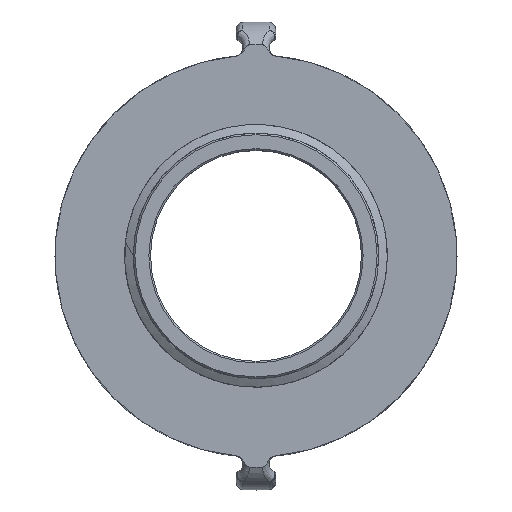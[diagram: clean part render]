
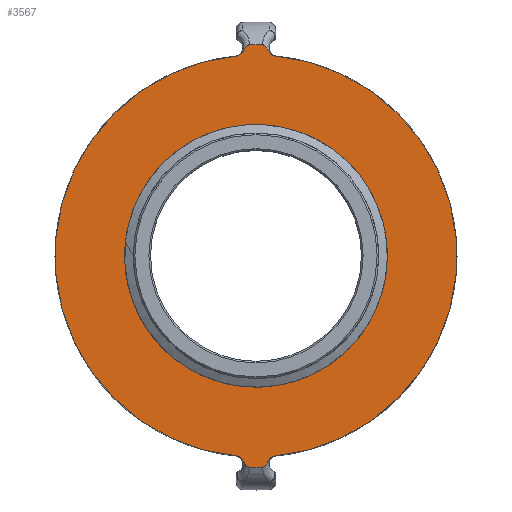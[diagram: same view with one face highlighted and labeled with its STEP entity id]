
A CAD part, top view. The second image highlights one B-rep face of the part: STEP entity #3567.
In plain terms, the highlighted planar face has unit normal (0, 0, 1).
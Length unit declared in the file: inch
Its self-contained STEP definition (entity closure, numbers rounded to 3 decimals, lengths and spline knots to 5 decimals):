
#462=CARTESIAN_POINT('',(0.,0.,-0.25));
#463=DIRECTION('',(0.,0.,1.));
#464=DIRECTION('',(0.,1.,0.));
#465=AXIS2_PLACEMENT_3D('',#462,#463,#464);
#467=CARTESIAN_POINT('',(0.,0.,-0.25));
#468=DIRECTION('',(0.,0.,1.));
#469=DIRECTION('',(0.,-1.,0.));
#470=AXIS2_PLACEMENT_3D('',#467,#468,#469);
#486=CARTESIAN_POINT('',(0.,0.,-0.25));
#487=DIRECTION('',(0.,0.,-1.));
#488=DIRECTION('',(0.086,0.996,0.));
#489=AXIS2_PLACEMENT_3D('',#486,#487,#488);
#526=CARTESIAN_POINT('',(0.,0.,-0.25));
#527=DIRECTION('',(0.,0.,-1.));
#528=DIRECTION('',(-0.086,-0.996,0.));
#529=AXIS2_PLACEMENT_3D('',#526,#527,#528);
#544=CARTESIAN_POINT('',(0.,0.,-0.25));
#545=DIRECTION('',(0.,0.,-1.));
#546=DIRECTION('',(-0.031,1.,0.));
#547=AXIS2_PLACEMENT_3D('',#544,#545,#546);
#628=CARTESIAN_POINT('',(0.,0.,-0.25));
#629=DIRECTION('',(0.,0.,-1.));
#630=DIRECTION('',(0.031,-1.,0.));
#631=AXIS2_PLACEMENT_3D('',#628,#629,#630);
#712=CARTESIAN_POINT('',(-0.32905,3.79827,-0.25));
#713=CARTESIAN_POINT('',(-0.3188,3.80325,-0.25));
#714=CARTESIAN_POINT('',(-0.29965,3.81492,-0.25));
#715=CARTESIAN_POINT('',(-0.27418,3.83699,-0.25));
#716=CARTESIAN_POINT('',(-0.25261,3.86181,-0.25));
#717=CARTESIAN_POINT('',(-0.23402,3.88831,-0.25));
#718=CARTESIAN_POINT('',(-0.21697,3.9161,-0.25));
#719=CARTESIAN_POINT('',(-0.20017,3.94402,-0.25));
#720=CARTESIAN_POINT('',(-0.18312,3.96838,-0.25));
#721=CARTESIAN_POINT('',(-0.16585,3.98677,-0.25));
#722=CARTESIAN_POINT('',(-0.14583,3.99975,-0.25));
#723=CARTESIAN_POINT('',(-0.13192,4.00296,-0.25));
#724=CARTESIAN_POINT('',(-0.12471,4.00319,-0.25));
#1004=CARTESIAN_POINT('',(0.12471,4.00319,-0.25));
#1005=CARTESIAN_POINT('',(0.13194,4.00296,-0.25));
#1006=CARTESIAN_POINT('',(0.14595,3.99974,-0.25));
#1007=CARTESIAN_POINT('',(0.16637,3.9864,-0.25));
#1008=CARTESIAN_POINT('',(0.18404,3.96722,-0.25));
#1009=CARTESIAN_POINT('',(0.20077,3.943,-0.25));
#1010=CARTESIAN_POINT('',(0.21691,3.91623,-0.25));
#1011=CARTESIAN_POINT('',(0.23347,3.88916,-0.25));
#1012=CARTESIAN_POINT('',(0.25187,3.86279,-0.25));
#1013=CARTESIAN_POINT('',(0.27345,3.83771,-0.25));
#1014=CARTESIAN_POINT('',(0.29919,3.81522,-0.25));
#1015=CARTESIAN_POINT('',(0.31863,3.80335,-0.25));
#1016=CARTESIAN_POINT('',(0.32905,3.79827,-0.25));
#1160=CARTESIAN_POINT('',(0.32905,-3.79827,-0.25));
#1161=CARTESIAN_POINT('',(0.3188,-3.80325,-0.25));
#1162=CARTESIAN_POINT('',(0.29965,-3.81492,-0.25));
#1163=CARTESIAN_POINT('',(0.27418,-3.83699,-0.25));
#1164=CARTESIAN_POINT('',(0.25261,-3.86181,-0.25));
#1165=CARTESIAN_POINT('',(0.23402,-3.88831,-0.25));
#1166=CARTESIAN_POINT('',(0.21697,-3.9161,-0.25));
#1167=CARTESIAN_POINT('',(0.20017,-3.94402,-0.25));
#1168=CARTESIAN_POINT('',(0.18312,-3.96838,-0.25));
#1169=CARTESIAN_POINT('',(0.16585,-3.98677,-0.25));
#1170=CARTESIAN_POINT('',(0.14583,-3.99975,-0.25));
#1171=CARTESIAN_POINT('',(0.13192,-4.00296,-0.25));
#1172=CARTESIAN_POINT('',(0.12471,-4.00319,-0.25));
#1452=CARTESIAN_POINT('',(-0.12471,-4.00319,-0.25));
#1453=CARTESIAN_POINT('',(-0.13194,-4.00296,-0.25));
#1454=CARTESIAN_POINT('',(-0.14595,-3.99974,-0.25));
#1455=CARTESIAN_POINT('',(-0.16637,-3.9864,-0.25));
#1456=CARTESIAN_POINT('',(-0.18404,-3.96722,-0.25));
#1457=CARTESIAN_POINT('',(-0.20077,-3.943,-0.25));
#1458=CARTESIAN_POINT('',(-0.21691,-3.91623,-0.25));
#1459=CARTESIAN_POINT('',(-0.23347,-3.88916,-0.25));
#1460=CARTESIAN_POINT('',(-0.25187,-3.86279,-0.25));
#1461=CARTESIAN_POINT('',(-0.27345,-3.83771,-0.25));
#1462=CARTESIAN_POINT('',(-0.29919,-3.81522,-0.25));
#1463=CARTESIAN_POINT('',(-0.31863,-3.80335,-0.25));
#1464=CARTESIAN_POINT('',(-0.32905,-3.79827,-0.25));
#2741=CARTESIAN_POINT('',(0.32905,3.79827,-0.25));
#2742=CARTESIAN_POINT('',(0.32905,-3.79827,-0.25));
#2743=VERTEX_POINT('',#2741);
#2744=VERTEX_POINT('',#2742);
#2745=CARTESIAN_POINT('',(-0.32905,-3.79827,-0.25));
#2746=CARTESIAN_POINT('',(-0.32905,3.79827,-0.25));
#2747=VERTEX_POINT('',#2745);
#2748=VERTEX_POINT('',#2746);
#2749=CARTESIAN_POINT('',(-0.12471,4.00319,-0.25));
#2750=CARTESIAN_POINT('',(0.12471,4.00319,-0.25));
#2751=VERTEX_POINT('',#2749);
#2752=VERTEX_POINT('',#2750);
#2753=CARTESIAN_POINT('',(0.12471,-4.00319,-0.25));
#2754=CARTESIAN_POINT('',(-0.12471,-4.00319,-0.25));
#2755=VERTEX_POINT('',#2753);
#2756=VERTEX_POINT('',#2754);
#2817=CARTESIAN_POINT('',(0.,2.4375,-0.25));
#2818=CARTESIAN_POINT('',(0.,-2.4375,-0.25));
#2819=VERTEX_POINT('',#2817);
#2820=VERTEX_POINT('',#2818);
#3539=CARTESIAN_POINT('',(0.,0.,-0.25));
#3540=DIRECTION('',(0.,0.,-1.));
#3541=DIRECTION('',(0.,-1.,0.));
#3542=AXIS2_PLACEMENT_3D('',#3539,#3540,#3541);
#3543=PLANE('',#3542);
#3545=ORIENTED_EDGE('',*,*,#3544,.T.);
#3547=ORIENTED_EDGE('',*,*,#3546,.T.);
#3549=ORIENTED_EDGE('',*,*,#3548,.T.);
#3551=ORIENTED_EDGE('',*,*,#3550,.T.);
#3553=ORIENTED_EDGE('',*,*,#3552,.T.);
#3555=ORIENTED_EDGE('',*,*,#3554,.T.);
#3557=ORIENTED_EDGE('',*,*,#3556,.T.);
#3559=ORIENTED_EDGE('',*,*,#3558,.T.);
#3560=EDGE_LOOP('',(#3545,#3547,#3549,#3551,#3553,#3555,#3557,#3559));
#3561=FACE_OUTER_BOUND('',#3560,.F.);
#3563=ORIENTED_EDGE('',*,*,#3562,.T.);
#3564=ORIENTED_EDGE('',*,*,#3529,.T.);
#3565=EDGE_LOOP('',(#3563,#3564));
#3566=FACE_BOUND('',#3565,.F.);
#466=CIRCLE('',#465,2.4375);
#471=CIRCLE('',#470,2.4375);
#490=CIRCLE('',#489,3.8125);
#530=CIRCLE('',#529,3.8125);
#548=CIRCLE('',#547,4.00513);
#632=CIRCLE('',#631,4.00513);
#725=B_SPLINE_CURVE_WITH_KNOTS('',3,(#712,#713,#714,#715,#716,#717,#718,#719,
#720,#721,#722,#723,#724),.UNSPECIFIED.,.F.,.F.,(4,1,1,1,1,1,1,1,1,1,4),(0.,
0.1,0.2,0.3,0.4,0.5,0.6,0.7,0.8,0.9,1.),.UNSPECIFIED.);
#1017=B_SPLINE_CURVE_WITH_KNOTS('',3,(#1004,#1005,#1006,#1007,#1008,#1009,#1010,
#1011,#1012,#1013,#1014,#1015,#1016),.UNSPECIFIED.,.F.,.F.,(4,1,1,1,1,1,1,1,1,1,
4),(0.,0.1,0.2,0.3,0.4,0.5,0.6,0.7,0.8,0.9,1.),
.UNSPECIFIED.);
#1173=B_SPLINE_CURVE_WITH_KNOTS('',3,(#1160,#1161,#1162,#1163,#1164,#1165,#1166,
#1167,#1168,#1169,#1170,#1171,#1172),.UNSPECIFIED.,.F.,.F.,(4,1,1,1,1,1,1,1,1,1,
4),(0.,0.1,0.2,0.3,0.4,0.5,0.6,0.7,0.8,0.9,1.),
.UNSPECIFIED.);
#1465=B_SPLINE_CURVE_WITH_KNOTS('',3,(#1452,#1453,#1454,#1455,#1456,#1457,#1458,
#1459,#1460,#1461,#1462,#1463,#1464),.UNSPECIFIED.,.F.,.F.,(4,1,1,1,1,1,1,1,1,1,
4),(0.,0.1,0.2,0.3,0.4,0.5,0.6,0.7,0.8,0.9,1.),
.UNSPECIFIED.);
#3529=EDGE_CURVE('',#2820,#2819,#471,.T.);
#3544=EDGE_CURVE('',#2743,#2744,#490,.T.);
#3546=EDGE_CURVE('',#2744,#2755,#1173,.T.);
#3548=EDGE_CURVE('',#2755,#2756,#632,.T.);
#3550=EDGE_CURVE('',#2756,#2747,#1465,.T.);
#3552=EDGE_CURVE('',#2747,#2748,#530,.T.);
#3554=EDGE_CURVE('',#2748,#2751,#725,.T.);
#3556=EDGE_CURVE('',#2751,#2752,#548,.T.);
#3558=EDGE_CURVE('',#2752,#2743,#1017,.T.);
#3562=EDGE_CURVE('',#2819,#2820,#466,.T.);
#3567=ADVANCED_FACE('',(#3561,#3566),#3543,.F.);
